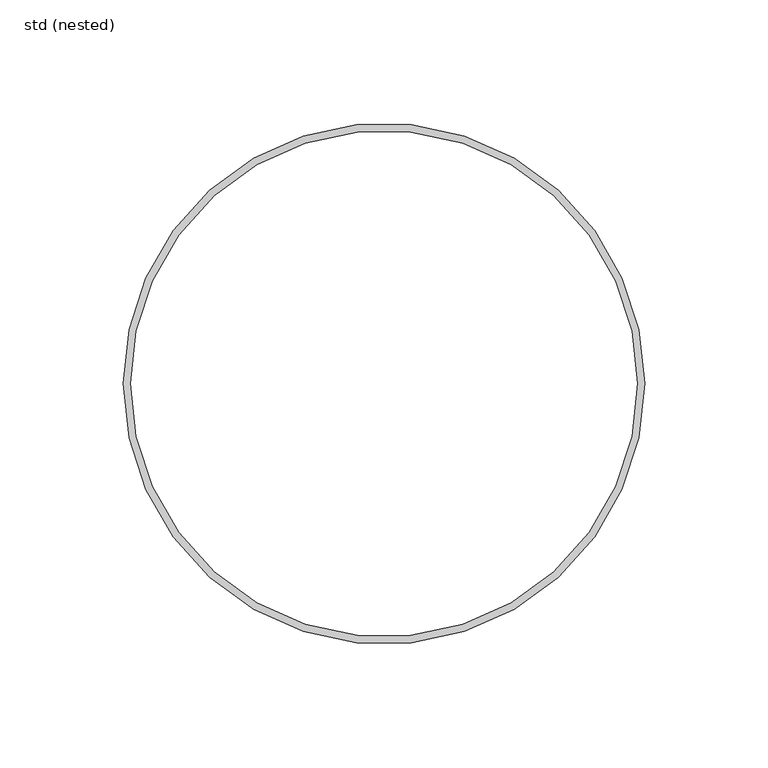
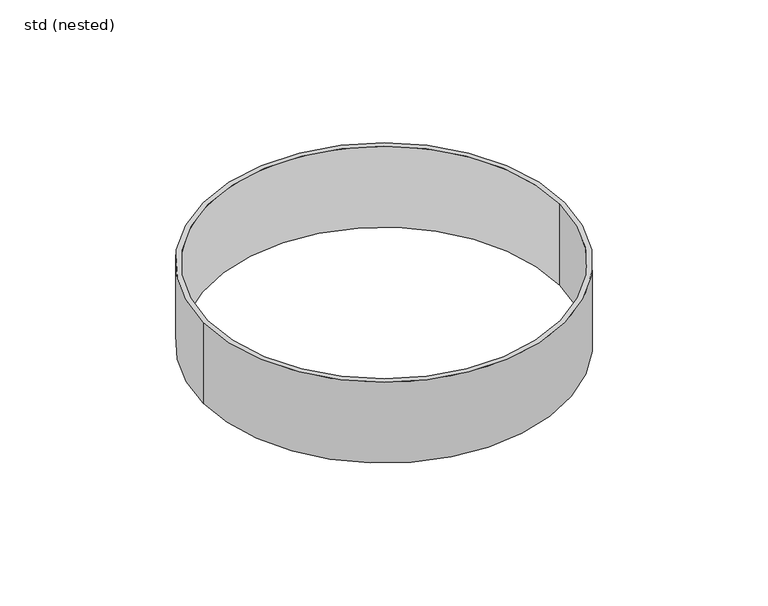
"""IFC4 building model written with IfcOpenShell, lengths in millimetres: pipe fitting geometry, ZZZ_do not use_PIF_ST_WPB_GM-X compound pipe clamp_ACO : std (nested)."""

import ifcopenshell
import ifcopenshell.guid

model = None  # the IFC model being written
_history = None  # IfcOwnerHistory: only IFC2X3 demands one
_inside = {}  # id of a spatial element -> (the spatial element, [elements in it])
_under = {}  # id of a project, library or spatial element -> (it, [spatial elements below it])
_declared = {}  # id of a project -> (the project, [libraries it declares])
_typed = {}  # id of a type object -> (the type object, [elements of that type])
_made_of = {}  # id of a material, layer set ... -> (it, [elements and type objects made of it])


def new_model(schema):
    """Start an empty IFC model of exactly this schema.

    Asked for "IFC4X3", IfcOpenShell would pick the latest addendum, in which some entities
    have other attributes; the version numbers below select the first issue.
    IFC2X3 requires an IfcOwnerHistory on every rooted entity: one is made here for all.
    """
    global model, _history
    if schema == "IFC4X3":
        model = ifcopenshell.file(schema_version=(4, 3, 0, 0))
    else:
        model = ifcopenshell.file(schema=schema)
    _inside.clear()
    _under.clear()
    _declared.clear()
    _typed.clear()
    _made_of.clear()
    _history = None
    if model.schema == "IFC2X3":
        org = make("IfcOrganization", Name="unknown")
        user = make(
            "IfcPersonAndOrganization",
            ThePerson=make("IfcPerson", FamilyName="unknown"),
            TheOrganization=org,
        )
        app = make(
            "IfcApplication",
            ApplicationDeveloper=org,
            Version="unknown",
            ApplicationFullName="unknown",
            ApplicationIdentifier="unknown",
        )
        _history = make(
            "IfcOwnerHistory",
            OwningUser=user,
            OwningApplication=app,
            ChangeAction="ADDED",
            CreationDate=0,
        )
    return model


def make(cls, **values):
    """One entity of the class cls with the attributes given. An attribute that is None is left unset."""
    return model.create_entity(
        cls, **{name: value for name, value in values.items() if value is not None}
    )


def rooted(cls, **values):
    """An entity with a GlobalId (a new one), such as an element, a storey or a relation."""
    return make(cls, GlobalId=ifcopenshell.guid.new(), OwnerHistory=_history, **values)


def si_unit(unit_type, name, prefix=None):
    """IfcSIUnit, for example si_unit("LENGTHUNIT", "METRE", prefix="MILLI")."""
    return make("IfcSIUnit", UnitType=unit_type, Prefix=prefix, Name=name)


def assignment(units):
    """IfcUnitAssignment: the units of a project."""
    return None if units is None else make("IfcUnitAssignment", Units=units)


def point(xyz):
    """IfcCartesianPoint."""
    return None if xyz is None else make("IfcCartesianPoint", Coordinates=xyz)


def direction(xyz):
    """IfcDirection."""
    return None if xyz is None else make("IfcDirection", DirectionRatios=xyz)


def frame(location, z_axis=None, x_axis=None):
    """IfcAxis2Placement3D, a coordinate frame: its origin and axes. An axis left out is left unset."""
    return make(
        "IfcAxis2Placement3D",
        Location=point(location),
        Axis=direction(z_axis),
        RefDirection=direction(x_axis),
    )


def frame_2d(location, x_axis=None):
    """IfcAxis2Placement2D, a coordinate frame in the plane: its origin and x axis."""
    return make(
        "IfcAxis2Placement2D", Location=point(location), RefDirection=direction(x_axis)
    )


def origin():
    """The frame at (0, 0, 0) with its axes left unset."""
    return frame((0.0, 0.0, 0.0))


def origin_2d():
    """The frame at (0, 0) in the plane with its x axis left unset."""
    return frame_2d((0.0, 0.0))


def place(relative_to, where):
    """IfcLocalPlacement: puts the frame where relative to a parent placement (None: the world)."""
    return make(
        "IfcLocalPlacement", PlacementRelTo=relative_to, RelativePlacement=where
    )


def context(
    kind, dimensions, precision=None, world=None, true_north=None, identifier=None
):
    """IfcGeometricRepresentationContext, for example the 3D "Model" context."""
    return make(
        "IfcGeometricRepresentationContext",
        ContextIdentifier=identifier,
        ContextType=kind,
        CoordinateSpaceDimension=dimensions,
        Precision=precision,
        WorldCoordinateSystem=world,
        TrueNorth=true_north,
    )


def project(units=None, contexts=None):
    """IfcProject with its units and contexts."""
    return rooted(
        "IfcProject",
        Name="project",
        RepresentationContexts=contexts,
        UnitsInContext=assignment(units),
    )


def spatial(cls, under=None, at=None, **own):
    """A site, building, storey or space (cls), placed at a placement, below another one or the project."""
    s = rooted(cls, ObjectPlacement=at, **own)
    if under is not None:
        _under.setdefault(under.id(), (under, []))[1].append(s)
    return s


def circle_curve(where, radius):
    """IfcCircle in the frame where."""
    return make("IfcCircle", Position=where, Radius=radius)


def trimmed(basis, trim1, trim2, sense, master):
    """IfcTrimmedCurve: the piece of a basis curve between two trims."""
    return make(
        "IfcTrimmedCurve",
        BasisCurve=basis,
        Trim1=trim1,
        Trim2=trim2,
        SenseAgreement=sense,
        MasterRepresentation=master,
    )


def segment(curve, same_sense, transition):
    """IfcCompositeCurveSegment."""
    return make(
        "IfcCompositeCurveSegment",
        Transition=transition,
        SameSense=same_sense,
        ParentCurve=curve,
    )


def composite_curve(segments, self_intersect=None):
    """IfcCompositeCurve: segments joined end to end."""
    return make("IfcCompositeCurve", Segments=segments, SelfIntersect=self_intersect)


def outline(outer, holes=None, kind="AREA"):
    """IfcArbitraryClosedProfileDef: a profile drawn as a closed curve; with holes, ...WithVoids."""
    if holes is None:
        return make("IfcArbitraryClosedProfileDef", ProfileType=kind, OuterCurve=outer)
    return make(
        "IfcArbitraryProfileDefWithVoids",
        ProfileType=kind,
        OuterCurve=outer,
        InnerCurves=holes,
    )


def extrude(swept, where, along, depth):
    """IfcExtrudedAreaSolid: the profile swept, set in the frame where, extruded along a direction by depth."""
    return make(
        "IfcExtrudedAreaSolid",
        SweptArea=swept,
        Position=where,
        ExtrudedDirection=direction(along),
        Depth=depth,
    )


def shape(context_of_items, identifier, shape_type, items):
    """IfcShapeRepresentation: the items that make up one representation, for example the "Body"."""
    return make(
        "IfcShapeRepresentation",
        ContextOfItems=context_of_items,
        RepresentationIdentifier=identifier,
        RepresentationType=shape_type,
        Items=items,
    )


def source(mapping_origin, context_of_items, identifier, shape_type, items):
    """IfcRepresentationMap: a shape defined once, which mapped items show again and again."""
    return make(
        "IfcRepresentationMap",
        MappingOrigin=mapping_origin,
        MappedRepresentation=shape(context_of_items, identifier, shape_type, items),
    )


def transform(
    local_origin,
    x_axis=None,
    y_axis=None,
    z_axis=None,
    scale=None,
    scale2=None,
    scale3=None,
    uniform=True,
):
    """IfcCartesianTransformationOperator3D, or its non-uniform kind. x_axis, y_axis, z_axis: its Axis1, 2, 3."""
    if uniform:
        return make(
            "IfcCartesianTransformationOperator3D",
            Axis1=direction(x_axis),
            Axis2=direction(y_axis),
            LocalOrigin=point(local_origin),
            Scale=scale,
            Axis3=direction(z_axis),
        )
    return make(
        "IfcCartesianTransformationOperator3DnonUniform",
        Axis1=direction(x_axis),
        Axis2=direction(y_axis),
        LocalOrigin=point(local_origin),
        Scale=scale,
        Axis3=direction(z_axis),
        Scale2=scale2,
        Scale3=scale3,
    )


def mapped(mapping_source, mapping_target):
    """IfcMappedItem: shows the shape of a source again, moved by a transform."""
    return make(
        "IfcMappedItem", MappingSource=mapping_source, MappingTarget=mapping_target
    )


def made_of(thing, what):
    """Note that an element or type object is made of a material, layer set ...; save() writes the relation."""
    if what is not None:
        _made_of.setdefault(what.id(), (what, []))[1].append(thing)
    return thing


def element(
    cls,
    number,
    at=None,
    inside=None,
    cuts=None,
    type_object=None,
    material=None,
    context=None,
    identifier="Body",
    shape_type=None,
    held_by="IfcProductDefinitionShape",
    body=None,
    shapes=None,
    **own,
):
    """One element of the class cls, such as IfcWall. Its Tag is "e" and its number.

    at: its placement. inside: the storey or other place that contains it. cuts: it is an
    opening in that element (IfcRelVoidsElement). A single representation is given by context,
    identifier, shape_type and body (its items); several are given by shapes. held_by: the class
    of the entity that holds the representations. save() writes the other relations.
    """
    e = rooted(cls, Tag="e%d" % number, ObjectPlacement=at, **own)
    if body is not None:
        shapes = [shape(context, identifier, shape_type, body)]
    if shapes is not None:
        e.Representation = make(held_by, Representations=shapes)
    if inside is not None:
        _inside.setdefault(inside.id(), (inside, []))[1].append(e)
    if cuts is not None:
        rooted(
            "IfcRelVoidsElement", RelatingBuildingElement=cuts, RelatedOpeningElement=e
        )
    if type_object is not None:
        _typed.setdefault(type_object.id(), (type_object, []))[1].append(e)
    return made_of(e, material)


def aggregate(whole, parts):
    """IfcRelAggregates: a whole, such as a stair, and the parts it consists of."""
    return rooted("IfcRelAggregates", RelatingObject=whole, RelatedObjects=parts)


def save(model, path):
    """Write the relations noted so far, then the file.

    IfcRelAggregates (storeys below a building ...), IfcRelContainedInSpatialStructure (elements
    in a storey), IfcRelDefinesByType, IfcRelAssociatesMaterial and IfcRelDeclares: one each for
    every whole, place, type object, material and project.
    """
    for whole, parts in _under.values():
        aggregate(whole, parts)
    for where, things in _inside.values():
        rooted(
            "IfcRelContainedInSpatialStructure",
            RelatedElements=things,
            RelatingStructure=where,
        )
    for kind, things in _typed.values():
        rooted("IfcRelDefinesByType", RelatedObjects=things, RelatingType=kind)
    for what, things in _made_of.values():
        rooted("IfcRelAssociatesMaterial", RelatedObjects=things, RelatingMaterial=what)
    for by, libraries in _declared.values():
        rooted("IfcRelDeclares", RelatingContext=by, RelatedDefinitions=libraries)
    model.write(path)


def std_nested_7b649233(model_context):
    return source(origin(), model_context, "Body", "SweptSolid", [
        extrude(outline(composite_curve([segment(trimmed(circle_curve(origin_2d(), 105.5), [point((105.5, 0.0))], [point((-105.5, 0.0))], False, "CARTESIAN"), True, "CONTINUOUS"), segment(trimmed(circle_curve(origin_2d(), 105.5), [point((-105.5, 0.0))], [point((105.5, 0.0))], False, "CARTESIAN"), True, "CONTINUOUS")], self_intersect=False), holes=[composite_curve([segment(trimmed(circle_curve(origin_2d(), 102.5), [point((102.5, 0.0))], [point((-102.5, 0.0))], True, "CARTESIAN"), True, "CONTINUOUS"), segment(trimmed(circle_curve(origin_2d(), 102.5), [point((-102.5, 0.0))], [point((102.5, 0.0))], True, "CARTESIAN"), True, "CONTINUOUS")], self_intersect=False)]), frame((0.0, 0.0, -92.5), z_axis=(0.0, 0.0, 1.0), x_axis=(1.0, 0.0, 0.0)), (0.0, 0.0, 1.0), 50.0),
    ])


if __name__ == "__main__":
    model = new_model("IFC4")
    model_context = context("Model", 3, world=origin())
    ifc_project = project(units=[si_unit("LENGTHUNIT", "METRE", prefix="MILLI")], contexts=[model_context])
    site = spatial("IfcSite", under=ifc_project)
    building = spatial("IfcBuilding", under=site)
    placement = place(None, origin())
    std_nested_shape = std_nested_7b649233(model_context)
    element("IfcPipeFitting", 1, ObjectType="ZZZ_do not use_PIF_ST_WPB_GM-X compound pipe clamp_ACO : std (nested)", at=placement, inside=building, context=model_context, shape_type="MappedRepresentation", body=[
        mapped(std_nested_shape, transform((0.0, 0.0, 0.0), x_axis=(1.0, 0.0, 0.0), y_axis=(0.0, 1.0, 0.0), z_axis=(0.0, 0.0, 1.0))),
    ])
    save(model, "model.ifc")
